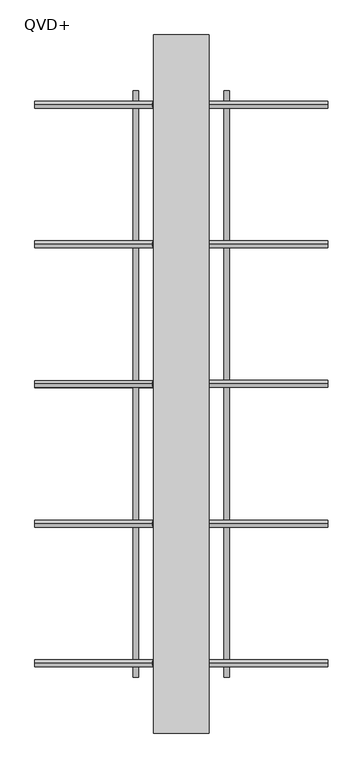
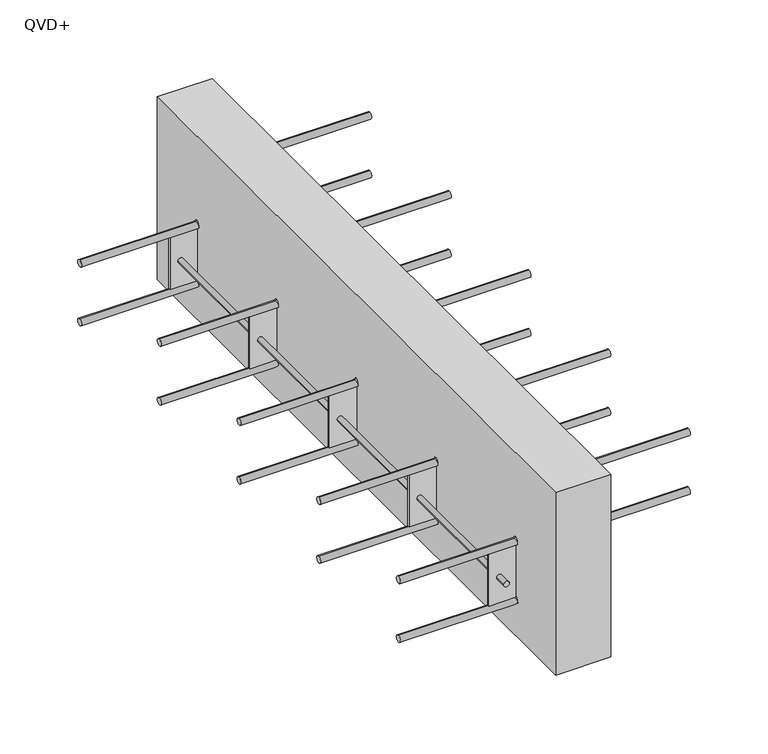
"""IFC4 building model written with IfcOpenShell, lengths in millimetres: fastener geometry, ACINOXplus_Typenreihe_QV : QVD+."""

from ifc_helpers import new_model, si_unit, point, frame, frame_2d, origin, place, context, project, spatial, polyline, circle_curve, ellipse_curve, trimmed, segment, composite_curve, outline, extrude, source, transform, mapped, element, save
from ifc_brep_helpers import plane_surface, cylinder_surface, advanced_brep


def qvd_6d9e3615(model_context):
    return source(origin(), model_context, "Body", "SolidModel", [
        extrude(outline(polyline([(40.0, 500.0), (40.0, -500.0), (-40.0, -500.0), (-40.0, 500.0), (40.0, 500.0)])), frame((0.0, 0.0, -200.0), z_axis=(0.0, 0.0, 1.0), x_axis=(1.0, 0.0, 0.0)), (0.0, 0.0, 1.0), 280.0),
        extrude(outline(polyline([(-60.0, -40.0), (-60.0, -80.0), (-140.0, -80.0), (-140.0, -40.0), (-60.0, 40.0), (-60.0, 80.0), (20.0, 80.0), (20.0, 40.0), (-60.0, -40.0)])), frame((0.0, 198.5, 0.0), z_axis=(0.0, 1.0, 0.0), x_axis=(0.0, 0.0, 1.0)), (0.0, 0.0, 1.0), 3.0),
        extrude(outline(polyline([(-60.0, -40.0), (-60.0, -80.0), (-140.0, -80.0), (-140.0, -40.0), (-60.0, 40.0), (-60.0, 80.0), (20.0, 80.0), (20.0, 40.0), (-60.0, -40.0)])), frame((0.0, -1.5, 0.0), z_axis=(0.0, 1.0, 0.0), x_axis=(0.0, 0.0, 1.0)), (0.0, 0.0, 1.0), 3.0),
        extrude(outline(polyline([(-60.0, -40.0), (-60.0, -80.0), (-140.0, -80.0), (-140.0, -40.0), (-60.0, 40.0), (-60.0, 80.0), (20.0, 80.0), (20.0, 40.0), (-60.0, -40.0)])), frame((0.0, -201.5, 0.0), z_axis=(0.0, 1.0, 0.0), x_axis=(0.0, 0.0, 1.0)), (0.0, 0.0, 1.0), 3.0),
        extrude(outline(polyline([(-60.0, -40.0), (-60.0, -80.0), (-140.0, -80.0), (-140.0, -40.0), (-60.0, 40.0), (-60.0, 80.0), (20.0, 80.0), (20.0, 40.0), (-60.0, -40.0)])), frame((0.0, 398.5, 0.0), z_axis=(0.0, 1.0, 0.0), x_axis=(0.0, 0.0, 1.0)), (0.0, 0.0, 1.0), 3.0),
        extrude(outline(polyline([(-60.0, -40.0), (-60.0, -80.0), (-140.0, -80.0), (-140.0, -40.0), (-60.0, 40.0), (-60.0, 80.0), (20.0, 80.0), (20.0, 40.0), (-60.0, -40.0)])), frame((0.0, -401.5, 0.0), z_axis=(0.0, 1.0, 0.0), x_axis=(0.0, 0.0, 1.0)), (0.0, 0.0, 1.0), 3.0),
        extrude(outline(composite_curve([segment(trimmed(circle_curve(frame_2d((-100.0, -65.0)), 4.0), [point((-100.0, -69.0))], [point((-100.0, -61.0))], False, "CARTESIAN"), True, "CONTINUOUS"), segment(trimmed(circle_curve(frame_2d((-100.0, -65.0)), 4.0), [point((-100.0, -61.0))], [point((-100.0, -69.0))], False, "CARTESIAN"), True, "CONTINUOUS")], self_intersect=False)), frame((0.0, 401.5, 0.0), z_axis=(0.0, 1.0, 0.0), x_axis=(0.0, 0.0, 1.0)), (0.0, 0.0, 1.0), 18.5),
        extrude(outline(composite_curve([segment(trimmed(circle_curve(frame_2d((-100.0, -65.0)), 4.0), [point((-100.0, -61.0))], [point((-100.0, -69.0))], False, "CARTESIAN"), True, "CONTINUOUS"), segment(trimmed(circle_curve(frame_2d((-100.0, -65.0)), 4.0), [point((-100.0, -69.0))], [point((-100.0, -61.0))], False, "CARTESIAN"), True, "CONTINUOUS")], self_intersect=False)), frame((0.0, -420.0, 0.0), z_axis=(0.0, 1.0, 0.0), x_axis=(0.0, 0.0, 1.0)), (0.0, 0.0, 1.0), 18.5),
        extrude(outline(composite_curve([segment(trimmed(circle_curve(frame_2d((-100.0, -65.0)), 4.0), [point((-100.0, -69.0))], [point((-100.0, -61.0))], False, "CARTESIAN"), True, "CONTINUOUS"), segment(trimmed(circle_curve(frame_2d((-100.0, -65.0)), 4.0), [point((-100.0, -61.0))], [point((-100.0, -69.0))], False, "CARTESIAN"), True, "CONTINUOUS")], self_intersect=False)), frame((0.0, -398.5, 0.0), z_axis=(0.0, 1.0, 0.0), x_axis=(0.0, 0.0, 1.0)), (0.0, 0.0, 1.0), 197.0),
        extrude(outline(composite_curve([segment(trimmed(circle_curve(frame_2d((-100.0, -65.0)), 4.0), [point((-100.0, -69.0))], [point((-100.0, -61.0))], False, "CARTESIAN"), True, "CONTINUOUS"), segment(trimmed(circle_curve(frame_2d((-100.0, -65.0)), 4.0), [point((-100.0, -61.0))], [point((-100.0, -69.0))], False, "CARTESIAN"), True, "CONTINUOUS")], self_intersect=False)), frame((0.0, -198.5, 0.0), z_axis=(0.0, 1.0, 0.0), x_axis=(0.0, 0.0, 1.0)), (0.0, 0.0, 1.0), 597.0),
        extrude(outline(composite_curve([segment(trimmed(circle_curve(frame_2d((-20.0, 65.0)), 4.0), [point((-20.0, 61.0))], [point((-20.0, 69.0))], False, "CARTESIAN"), True, "CONTINUOUS"), segment(trimmed(circle_curve(frame_2d((-20.0, 65.0)), 4.0), [point((-20.0, 69.0))], [point((-20.0, 61.0))], False, "CARTESIAN"), True, "CONTINUOUS")], self_intersect=False)), frame((0.0, 401.5, 0.0), z_axis=(0.0, 1.0, 0.0), x_axis=(0.0, 0.0, 1.0)), (0.0, 0.0, 1.0), 18.5),
        extrude(outline(composite_curve([segment(trimmed(circle_curve(frame_2d((-20.0, 65.0)), 4.0), [point((-20.0, 69.0))], [point((-20.0, 61.0))], False, "CARTESIAN"), True, "CONTINUOUS"), segment(trimmed(circle_curve(frame_2d((-20.0, 65.0)), 4.0), [point((-20.0, 61.0))], [point((-20.0, 69.0))], False, "CARTESIAN"), True, "CONTINUOUS")], self_intersect=False)), frame((0.0, -420.0, 0.0), z_axis=(0.0, 1.0, 0.0), x_axis=(0.0, 0.0, 1.0)), (0.0, 0.0, 1.0), 18.5),
        extrude(outline(composite_curve([segment(trimmed(circle_curve(frame_2d((-20.0, 65.0)), 4.0), [point((-20.0, 61.0))], [point((-20.0, 69.0))], False, "CARTESIAN"), True, "CONTINUOUS"), segment(trimmed(circle_curve(frame_2d((-20.0, 65.0)), 4.0), [point((-20.0, 69.0))], [point((-20.0, 61.0))], False, "CARTESIAN"), True, "CONTINUOUS")], self_intersect=False)), frame((0.0, -198.5, 0.0), z_axis=(0.0, 1.0, 0.0), x_axis=(0.0, 0.0, 1.0)), (0.0, 0.0, 1.0), 597.0),
        extrude(outline(composite_curve([segment(trimmed(circle_curve(frame_2d((-20.0, 65.0)), 4.0), [point((-20.0, 61.0))], [point((-20.0, 69.0))], False, "CARTESIAN"), True, "CONTINUOUS"), segment(trimmed(circle_curve(frame_2d((-20.0, 65.0)), 4.0), [point((-20.0, 69.0))], [point((-20.0, 61.0))], False, "CARTESIAN"), True, "CONTINUOUS")], self_intersect=False)), frame((0.0, -398.5, 0.0), z_axis=(0.0, 1.0, 0.0), x_axis=(0.0, 0.0, 1.0)), (0.0, 0.0, 1.0), 197.0),
        advanced_brep(
        [(-210.0, 0.0, -150.0), (-210.0, 0.0, -140.0), (-37.9289322, 0.0, -150.0), (-42.0710678, 0.0, -140.0), (42.0710678, 0.0, -70.0), (37.9289322, 0.0, -60.0), (210.0, 0.0, -70.0), (210.0, 0.0, -60.0)],
        [
            (0, 1, circle_curve(frame((-210.0, 0.0, -145.0), z_axis=(-1.0, 0.0, 0.0), x_axis=(0.0, 0.0, 1.0)), 5.0)),
            (1, 0, circle_curve(frame((-210.0, 0.0, -145.0), z_axis=(-1.0, 0.0, 0.0), x_axis=(0.0, 0.0, 1.0)), 5.0)),
            (0, 2),
            (2, 3, ellipse_curve(frame((-40.0, 0.0, -145.0), z_axis=(-0.9238795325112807, 0.0, -0.38268343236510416), x_axis=(-0.38268343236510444, 0.0, 0.9238795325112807)), 5.411961, 5.0)),
            (3, 1),
            (3, 2, ellipse_curve(frame((-40.0, 0.0, -145.0), z_axis=(-0.9238795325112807, 0.0, -0.38268343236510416), x_axis=(-0.38268343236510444, 0.0, 0.9238795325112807)), 5.411961, 5.0)),
            (2, 4),
            (4, 5, ellipse_curve(frame((40.0, 0.0, -65.0), z_axis=(-0.9238795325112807, 0.0, -0.38268343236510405), x_axis=(0.3826834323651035, 0.0, -0.923879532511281)), 5.411961, 5.0)),
            (5, 3),
            (5, 4, ellipse_curve(frame((40.0, 0.0, -65.0), z_axis=(-0.9238795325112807, 0.0, -0.38268343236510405), x_axis=(0.3826834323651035, 0.0, -0.923879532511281)), 5.411961, 5.0)),
            (6, 7, circle_curve(frame((210.0, 0.0, -65.0), z_axis=(1.0, 0.0, 0.0), x_axis=(0.0, 0.0, 1.0)), 5.0)),
            (7, 6, circle_curve(frame((210.0, 0.0, -65.0), z_axis=(1.0, 0.0, 0.0), x_axis=(0.0, 0.0, 1.0)), 5.0)),
            (4, 6),
            (7, 5),
        ],
        [
            plane_surface(frame((-210.0, 0.0, -145.0), z_axis=(-1.0, 0.0, 0.0), x_axis=(0.0, -1.0, 0.0))),
            cylinder_surface(frame((-210.0, 0.0, -145.0), z_axis=(-1.0, 0.0, 0.0), x_axis=(0.0, 0.0, 1.0)), 5.0),
            cylinder_surface(frame((-40.0, 0.0, -145.0), z_axis=(-0.7071067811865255, 0.0, -0.7071067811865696), x_axis=(-0.7071067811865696, 0.0, 0.7071067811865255)), 5.0),
            plane_surface(frame((210.0, 0.0, -65.0), z_axis=(1.0, 0.0, 0.0), x_axis=(0.0, -1.0, 0.0))),
            cylinder_surface(frame((40.0, 0.0, -65.0), z_axis=(-1.0, 0.0, 0.0), x_axis=(0.0, 0.0, 1.0)), 5.0),
        ],
        [
            (0, [[1, 2]]),
            (1, [[-1, 3, 4, 5]]),
            (1, [[-2, -5, 6, -3]]),
            (2, [[-4, 7, 8, 9]]),
            (2, [[-6, -9, 10, -7]]),
            (3, [[11, 12]]),
            (4, [[-8, 13, -12, 14]]),
            (4, [[-10, -14, -11, -13]]),
        ],
    ),
        advanced_brep(
        [(-210.0, 200.0, -150.0), (-210.0, 200.0, -140.0), (-37.9289322, 200.0, -150.0), (-42.0710678, 200.0, -140.0), (42.0710678, 200.0, -70.0), (37.9289322, 200.0, -60.0), (210.0, 200.0, -70.0), (210.0, 200.0, -60.0)],
        [
            (0, 1, circle_curve(frame((-210.0, 200.0, -145.0), z_axis=(-1.0, 0.0, 0.0), x_axis=(0.0, 0.0, 1.0)), 5.0)),
            (1, 0, circle_curve(frame((-210.0, 200.0, -145.0), z_axis=(-1.0, 0.0, 0.0), x_axis=(0.0, 0.0, 1.0)), 5.0)),
            (0, 2),
            (2, 3, ellipse_curve(frame((-40.0, 200.0, -145.0), z_axis=(-0.9238795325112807, 0.0, -0.38268343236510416), x_axis=(-0.38268343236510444, 0.0, 0.9238795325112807)), 5.411961, 5.0)),
            (3, 1),
            (3, 2, ellipse_curve(frame((-40.0, 200.0, -145.0), z_axis=(-0.9238795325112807, 0.0, -0.38268343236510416), x_axis=(-0.38268343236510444, 0.0, 0.9238795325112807)), 5.411961, 5.0)),
            (2, 4),
            (4, 5, ellipse_curve(frame((40.0, 200.0, -65.0), z_axis=(-0.9238795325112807, 0.0, -0.38268343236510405), x_axis=(0.3826834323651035, 0.0, -0.923879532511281)), 5.411961, 5.0)),
            (5, 3),
            (5, 4, ellipse_curve(frame((40.0, 200.0, -65.0), z_axis=(-0.9238795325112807, 0.0, -0.38268343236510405), x_axis=(0.3826834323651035, 0.0, -0.923879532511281)), 5.411961, 5.0)),
            (6, 7, circle_curve(frame((210.0, 200.0, -65.0), z_axis=(1.0, 0.0, 0.0), x_axis=(0.0, 0.0, 1.0)), 5.0)),
            (7, 6, circle_curve(frame((210.0, 200.0, -65.0), z_axis=(1.0, 0.0, 0.0), x_axis=(0.0, 0.0, 1.0)), 5.0)),
            (4, 6),
            (7, 5),
        ],
        [
            plane_surface(frame((-210.0, 200.0, -145.0), z_axis=(-1.0, 0.0, 0.0), x_axis=(0.0, -1.0, 0.0))),
            cylinder_surface(frame((-210.0, 200.0, -145.0), z_axis=(-1.0, 0.0, 0.0), x_axis=(0.0, 0.0, 1.0)), 5.0),
            cylinder_surface(frame((-40.0, 200.0, -145.0), z_axis=(-0.7071067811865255, 0.0, -0.7071067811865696), x_axis=(-0.7071067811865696, 0.0, 0.7071067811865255)), 5.0),
            plane_surface(frame((210.0, 200.0, -65.0), z_axis=(1.0, 0.0, 0.0), x_axis=(0.0, -1.0, 0.0))),
            cylinder_surface(frame((40.0, 200.0, -65.0), z_axis=(-1.0, 0.0, 0.0), x_axis=(0.0, 0.0, 1.0)), 5.0),
        ],
        [
            (0, [[1, 2]]),
            (1, [[-1, 3, 4, 5]]),
            (1, [[-2, -5, 6, -3]]),
            (2, [[-4, 7, 8, 9]]),
            (2, [[-6, -9, 10, -7]]),
            (3, [[11, 12]]),
            (4, [[-8, 13, -12, 14]]),
            (4, [[-10, -14, -11, -13]]),
        ],
    ),
        advanced_brep(
        [(-210.0, 400.0, -150.0), (-210.0, 400.0, -140.0), (-37.9289322, 400.0, -150.0), (-42.0710678, 400.0, -140.0), (42.0710678, 400.0, -70.0), (37.9289322, 400.0, -60.0), (210.0, 400.0, -70.0), (210.0, 400.0, -60.0)],
        [
            (0, 1, circle_curve(frame((-210.0, 400.0, -145.0), z_axis=(-1.0, 0.0, 0.0), x_axis=(0.0, 0.0, 1.0)), 5.0)),
            (1, 0, circle_curve(frame((-210.0, 400.0, -145.0), z_axis=(-1.0, 0.0, 0.0), x_axis=(0.0, 0.0, 1.0)), 5.0)),
            (0, 2),
            (2, 3, ellipse_curve(frame((-40.0, 400.0, -145.0), z_axis=(-0.9238795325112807, 0.0, -0.38268343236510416), x_axis=(-0.38268343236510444, 0.0, 0.9238795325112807)), 5.411961, 5.0)),
            (3, 1),
            (3, 2, ellipse_curve(frame((-40.0, 400.0, -145.0), z_axis=(-0.9238795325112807, 0.0, -0.38268343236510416), x_axis=(-0.38268343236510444, 0.0, 0.9238795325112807)), 5.411961, 5.0)),
            (2, 4),
            (4, 5, ellipse_curve(frame((40.0, 400.0, -65.0), z_axis=(-0.9238795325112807, 0.0, -0.38268343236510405), x_axis=(0.3826834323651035, 0.0, -0.923879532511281)), 5.411961, 5.0)),
            (5, 3),
            (5, 4, ellipse_curve(frame((40.0, 400.0, -65.0), z_axis=(-0.9238795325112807, 0.0, -0.38268343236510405), x_axis=(0.3826834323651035, 0.0, -0.923879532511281)), 5.411961, 5.0)),
            (6, 7, circle_curve(frame((210.0, 400.0, -65.0), z_axis=(1.0, 0.0, 0.0), x_axis=(0.0, 0.0, 1.0)), 5.0)),
            (7, 6, circle_curve(frame((210.0, 400.0, -65.0), z_axis=(1.0, 0.0, 0.0), x_axis=(0.0, 0.0, 1.0)), 5.0)),
            (4, 6),
            (7, 5),
        ],
        [
            plane_surface(frame((-210.0, 400.0, -145.0), z_axis=(-1.0, 0.0, 0.0), x_axis=(0.0, -1.0, 0.0))),
            cylinder_surface(frame((-210.0, 400.0, -145.0), z_axis=(-1.0, 0.0, 0.0), x_axis=(0.0, 0.0, 1.0)), 5.0),
            cylinder_surface(frame((-40.0, 400.0, -145.0), z_axis=(-0.7071067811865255, 0.0, -0.7071067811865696), x_axis=(-0.7071067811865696, 0.0, 0.7071067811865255)), 5.0),
            plane_surface(frame((210.0, 400.0, -65.0), z_axis=(1.0, 0.0, 0.0), x_axis=(0.0, -1.0, 0.0))),
            cylinder_surface(frame((40.0, 400.0, -65.0), z_axis=(-1.0, 0.0, 0.0), x_axis=(0.0, 0.0, 1.0)), 5.0),
        ],
        [
            (0, [[1, 2]]),
            (1, [[-1, 3, 4, 5]]),
            (1, [[-2, -5, 6, -3]]),
            (2, [[-4, 7, 8, 9]]),
            (2, [[-6, -9, 10, -7]]),
            (3, [[11, 12]]),
            (4, [[-8, 13, -12, 14]]),
            (4, [[-10, -14, -11, -13]]),
        ],
    ),
        advanced_brep(
        [(-210.0, -200.0, -150.0), (-210.0, -200.0, -140.0), (-37.9289322, -200.0, -150.0), (-42.0710678, -200.0, -140.0), (42.0710678, -200.0, -70.0), (37.9289322, -200.0, -60.0), (210.0, -200.0, -70.0), (210.0, -200.0, -60.0)],
        [
            (0, 1, circle_curve(frame((-210.0, -200.0, -145.0), z_axis=(-1.0, 0.0, 0.0), x_axis=(0.0, 0.0, 1.0)), 5.0)),
            (1, 0, circle_curve(frame((-210.0, -200.0, -145.0), z_axis=(-1.0, 0.0, 0.0), x_axis=(0.0, 0.0, 1.0)), 5.0)),
            (0, 2),
            (2, 3, ellipse_curve(frame((-40.0, -200.0, -145.0), z_axis=(-0.9238795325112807, 0.0, -0.38268343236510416), x_axis=(-0.38268343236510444, 0.0, 0.9238795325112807)), 5.411961, 5.0)),
            (3, 1),
            (3, 2, ellipse_curve(frame((-40.0, -200.0, -145.0), z_axis=(-0.9238795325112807, 0.0, -0.38268343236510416), x_axis=(-0.38268343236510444, 0.0, 0.9238795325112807)), 5.411961, 5.0)),
            (2, 4),
            (4, 5, ellipse_curve(frame((40.0, -200.0, -65.0), z_axis=(-0.9238795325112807, 0.0, -0.38268343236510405), x_axis=(0.3826834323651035, 0.0, -0.923879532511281)), 5.411961, 5.0)),
            (5, 3),
            (5, 4, ellipse_curve(frame((40.0, -200.0, -65.0), z_axis=(-0.9238795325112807, 0.0, -0.38268343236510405), x_axis=(0.3826834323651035, 0.0, -0.923879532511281)), 5.411961, 5.0)),
            (6, 7, circle_curve(frame((210.0, -200.0, -65.0), z_axis=(1.0, 0.0, 0.0), x_axis=(0.0, 0.0, 1.0)), 5.0)),
            (7, 6, circle_curve(frame((210.0, -200.0, -65.0), z_axis=(1.0, 0.0, 0.0), x_axis=(0.0, 0.0, 1.0)), 5.0)),
            (4, 6),
            (7, 5),
        ],
        [
            plane_surface(frame((-210.0, -200.0, -145.0), z_axis=(-1.0, 0.0, 0.0), x_axis=(0.0, -1.0, 0.0))),
            cylinder_surface(frame((-210.0, -200.0, -145.0), z_axis=(-1.0, 0.0, 0.0), x_axis=(0.0, 0.0, 1.0)), 5.0),
            cylinder_surface(frame((-40.0, -200.0, -145.0), z_axis=(-0.7071067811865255, 0.0, -0.7071067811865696), x_axis=(-0.7071067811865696, 0.0, 0.7071067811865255)), 5.0),
            plane_surface(frame((210.0, -200.0, -65.0), z_axis=(1.0, 0.0, 0.0), x_axis=(0.0, -1.0, 0.0))),
            cylinder_surface(frame((40.0, -200.0, -65.0), z_axis=(-1.0, 0.0, 0.0), x_axis=(0.0, 0.0, 1.0)), 5.0),
        ],
        [
            (0, [[1, 2]]),
            (1, [[-1, 3, 4, 5]]),
            (1, [[-2, -5, 6, -3]]),
            (2, [[-4, 7, 8, 9]]),
            (2, [[-6, -9, 10, -7]]),
            (3, [[11, 12]]),
            (4, [[-8, 13, -12, 14]]),
            (4, [[-10, -14, -11, -13]]),
        ],
    ),
        advanced_brep(
        [(-210.0, -400.0, -150.0), (-210.0, -400.0, -140.0), (-37.9289322, -400.0, -150.0), (-42.0710678, -400.0, -140.0), (42.0710678, -400.0, -70.0), (37.9289322, -400.0, -60.0), (210.0, -400.0, -70.0), (210.0, -400.0, -60.0)],
        [
            (0, 1, circle_curve(frame((-210.0, -400.0, -145.0), z_axis=(-1.0, 0.0, 0.0), x_axis=(0.0, 0.0, 1.0)), 5.0)),
            (1, 0, circle_curve(frame((-210.0, -400.0, -145.0), z_axis=(-1.0, 0.0, 0.0), x_axis=(0.0, 0.0, 1.0)), 5.0)),
            (0, 2),
            (2, 3, ellipse_curve(frame((-40.0, -400.0, -145.0), z_axis=(-0.9238795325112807, 0.0, -0.38268343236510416), x_axis=(-0.38268343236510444, 0.0, 0.9238795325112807)), 5.411961, 5.0)),
            (3, 1),
            (3, 2, ellipse_curve(frame((-40.0, -400.0, -145.0), z_axis=(-0.9238795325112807, 0.0, -0.38268343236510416), x_axis=(-0.38268343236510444, 0.0, 0.9238795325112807)), 5.411961, 5.0)),
            (2, 4),
            (4, 5, ellipse_curve(frame((40.0, -400.0, -65.0), z_axis=(-0.9238795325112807, 0.0, -0.38268343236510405), x_axis=(0.3826834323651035, 0.0, -0.923879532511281)), 5.411961, 5.0)),
            (5, 3),
            (5, 4, ellipse_curve(frame((40.0, -400.0, -65.0), z_axis=(-0.9238795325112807, 0.0, -0.38268343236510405), x_axis=(0.3826834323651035, 0.0, -0.923879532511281)), 5.411961, 5.0)),
            (6, 7, circle_curve(frame((210.0, -400.0, -65.0), z_axis=(1.0, 0.0, 0.0), x_axis=(0.0, 0.0, 1.0)), 5.0)),
            (7, 6, circle_curve(frame((210.0, -400.0, -65.0), z_axis=(1.0, 0.0, 0.0), x_axis=(0.0, 0.0, 1.0)), 5.0)),
            (4, 6),
            (7, 5),
        ],
        [
            plane_surface(frame((-210.0, -400.0, -145.0), z_axis=(-1.0, 0.0, 0.0), x_axis=(0.0, -1.0, 0.0))),
            cylinder_surface(frame((-210.0, -400.0, -145.0), z_axis=(-1.0, 0.0, 0.0), x_axis=(0.0, 0.0, 1.0)), 5.0),
            cylinder_surface(frame((-40.0, -400.0, -145.0), z_axis=(-0.7071067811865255, 0.0, -0.7071067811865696), x_axis=(-0.7071067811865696, 0.0, 0.7071067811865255)), 5.0),
            plane_surface(frame((210.0, -400.0, -65.0), z_axis=(1.0, 0.0, 0.0), x_axis=(0.0, -1.0, 0.0))),
            cylinder_surface(frame((40.0, -400.0, -65.0), z_axis=(-1.0, 0.0, 0.0), x_axis=(0.0, 0.0, 1.0)), 5.0),
        ],
        [
            (0, [[1, 2]]),
            (1, [[-1, 3, 4, 5]]),
            (1, [[-2, -5, 6, -3]]),
            (2, [[-4, 7, 8, 9]]),
            (2, [[-6, -9, 10, -7]]),
            (3, [[11, 12]]),
            (4, [[-8, 13, -12, 14]]),
            (4, [[-10, -14, -11, -13]]),
        ],
    ),
        advanced_brep(
        [(-210.0, 0.0, -60.0), (-210.0, 0.0, -50.0), (-37.9289322, 0.0, -60.0), (-42.0710678, 0.0, -50.0), (210.0, 0.0, 20.0), (210.0, 0.0, 30.0), (37.9289322, 0.0, 30.0), (42.0710678, 0.0, 20.0)],
        [
            (0, 1, circle_curve(frame((-210.0, 0.0, -55.0), z_axis=(-1.0, 0.0, 0.0), x_axis=(0.0, 0.0, 1.0)), 5.0)),
            (1, 0, circle_curve(frame((-210.0, 0.0, -55.0), z_axis=(-1.0, 0.0, 0.0), x_axis=(0.0, 0.0, 1.0)), 5.0)),
            (0, 2),
            (2, 3, ellipse_curve(frame((-40.0, 0.0, -55.0), z_axis=(-0.9238795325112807, 0.0, -0.3826834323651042), x_axis=(-0.38268343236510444, 0.0, 0.9238795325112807)), 5.411961, 5.0)),
            (3, 1),
            (3, 2, ellipse_curve(frame((-40.0, 0.0, -55.0), z_axis=(-0.9238795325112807, 0.0, -0.3826834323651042), x_axis=(-0.38268343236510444, 0.0, 0.9238795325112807)), 5.411961, 5.0)),
            (4, 5, circle_curve(frame((210.0, 0.0, 25.0), z_axis=(1.0, 0.0, 0.0), x_axis=(0.0, 0.0, 1.0)), 5.0)),
            (5, 4, circle_curve(frame((210.0, 0.0, 25.0), z_axis=(1.0, 0.0, 0.0), x_axis=(0.0, 0.0, 1.0)), 5.0)),
            (6, 7, ellipse_curve(frame((40.0, 0.0, 25.0), z_axis=(0.9238795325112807, 0.0, 0.3826834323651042), x_axis=(-0.38268343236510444, 0.0, 0.9238795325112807)), 5.411961, 5.0)),
            (7, 4),
            (5, 6),
            (7, 6, ellipse_curve(frame((40.0, 0.0, 25.0), z_axis=(0.9238795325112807, 0.0, 0.3826834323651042), x_axis=(-0.38268343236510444, 0.0, 0.9238795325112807)), 5.411961, 5.0)),
            (2, 7),
            (6, 3),
        ],
        [
            plane_surface(frame((-210.0, 0.0, -55.0), z_axis=(-1.0, 0.0, 0.0), x_axis=(0.0, -1.0, 0.0))),
            cylinder_surface(frame((-210.0, 0.0, -55.0), z_axis=(-1.0, 0.0, 0.0), x_axis=(0.0, 0.0, 1.0)), 5.0),
            plane_surface(frame((210.0, 0.0, 25.0), z_axis=(1.0, 0.0, 0.0), x_axis=(0.0, -1.0, 0.0))),
            cylinder_surface(frame((40.0, 0.0, 25.0), z_axis=(-1.0, 0.0, 0.0), x_axis=(0.0, 0.0, 1.0)), 5.0),
            cylinder_surface(frame((-40.0, 0.0, -55.0), z_axis=(-0.7071067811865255, 0.0, -0.7071067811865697), x_axis=(-0.7071067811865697, 0.0, 0.7071067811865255)), 5.0),
        ],
        [
            (0, [[1, 2]]),
            (1, [[-1, 3, 4, 5]]),
            (1, [[-2, -5, 6, -3]]),
            (2, [[7, 8]]),
            (3, [[9, 10, -8, 11]]),
            (3, [[12, -11, -7, -10]]),
            (4, [[-4, 13, -9, 14]]),
            (4, [[-6, -14, -12, -13]]),
        ],
    ),
        advanced_brep(
        [(-210.0, 200.0, -60.0), (-210.0, 200.0, -50.0), (-37.9289322, 200.0, -60.0), (-42.0710678, 200.0, -50.0), (210.0, 200.0, 20.0), (210.0, 200.0, 30.0), (37.9289322, 200.0, 30.0), (42.0710678, 200.0, 20.0)],
        [
            (0, 1, circle_curve(frame((-210.0, 200.0, -55.0), z_axis=(-1.0, 0.0, 0.0), x_axis=(0.0, 0.0, 1.0)), 5.0)),
            (1, 0, circle_curve(frame((-210.0, 200.0, -55.0), z_axis=(-1.0, 0.0, 0.0), x_axis=(0.0, 0.0, 1.0)), 5.0)),
            (0, 2),
            (2, 3, ellipse_curve(frame((-40.0, 200.0, -55.0), z_axis=(-0.9238795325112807, 0.0, -0.3826834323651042), x_axis=(-0.38268343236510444, 0.0, 0.9238795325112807)), 5.411961, 5.0)),
            (3, 1),
            (3, 2, ellipse_curve(frame((-40.0, 200.0, -55.0), z_axis=(-0.9238795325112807, 0.0, -0.3826834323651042), x_axis=(-0.38268343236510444, 0.0, 0.9238795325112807)), 5.411961, 5.0)),
            (4, 5, circle_curve(frame((210.0, 200.0, 25.0), z_axis=(1.0, 0.0, 0.0), x_axis=(0.0, 0.0, 1.0)), 5.0)),
            (5, 4, circle_curve(frame((210.0, 200.0, 25.0), z_axis=(1.0, 0.0, 0.0), x_axis=(0.0, 0.0, 1.0)), 5.0)),
            (6, 7, ellipse_curve(frame((40.0, 200.0, 25.0), z_axis=(0.9238795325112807, 0.0, 0.3826834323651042), x_axis=(-0.38268343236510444, 0.0, 0.9238795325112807)), 5.411961, 5.0)),
            (7, 4),
            (5, 6),
            (7, 6, ellipse_curve(frame((40.0, 200.0, 25.0), z_axis=(0.9238795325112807, 0.0, 0.3826834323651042), x_axis=(-0.38268343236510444, 0.0, 0.9238795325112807)), 5.411961, 5.0)),
            (2, 7),
            (6, 3),
        ],
        [
            plane_surface(frame((-210.0, 200.0, -55.0), z_axis=(-1.0, 0.0, 0.0), x_axis=(0.0, -1.0, 0.0))),
            cylinder_surface(frame((-210.0, 200.0, -55.0), z_axis=(-1.0, 0.0, 0.0), x_axis=(0.0, 0.0, 1.0)), 5.0),
            plane_surface(frame((210.0, 200.0, 25.0), z_axis=(1.0, 0.0, 0.0), x_axis=(0.0, -1.0, 0.0))),
            cylinder_surface(frame((40.0, 200.0, 25.0), z_axis=(-1.0, 0.0, 0.0), x_axis=(0.0, 0.0, 1.0)), 5.0),
            cylinder_surface(frame((-40.0, 200.0, -55.0), z_axis=(-0.7071067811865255, 0.0, -0.7071067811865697), x_axis=(-0.7071067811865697, 0.0, 0.7071067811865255)), 5.0),
        ],
        [
            (0, [[1, 2]]),
            (1, [[-1, 3, 4, 5]]),
            (1, [[-2, -5, 6, -3]]),
            (2, [[7, 8]]),
            (3, [[9, 10, -8, 11]]),
            (3, [[12, -11, -7, -10]]),
            (4, [[-4, 13, -9, 14]]),
            (4, [[-6, -14, -12, -13]]),
        ],
    ),
        advanced_brep(
        [(-210.0, 400.0, -60.0), (-210.0, 400.0, -50.0), (-37.9289322, 400.0, -60.0), (-42.0710678, 400.0, -50.0), (210.0, 400.0, 20.0), (210.0, 400.0, 30.0), (37.9289322, 400.0, 30.0), (42.0710678, 400.0, 20.0)],
        [
            (0, 1, circle_curve(frame((-210.0, 400.0, -55.0), z_axis=(-1.0, 0.0, 0.0), x_axis=(0.0, 0.0, 1.0)), 5.0)),
            (1, 0, circle_curve(frame((-210.0, 400.0, -55.0), z_axis=(-1.0, 0.0, 0.0), x_axis=(0.0, 0.0, 1.0)), 5.0)),
            (0, 2),
            (2, 3, ellipse_curve(frame((-40.0, 400.0, -55.0), z_axis=(-0.9238795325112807, 0.0, -0.3826834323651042), x_axis=(-0.38268343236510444, 0.0, 0.9238795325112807)), 5.411961, 5.0)),
            (3, 1),
            (3, 2, ellipse_curve(frame((-40.0, 400.0, -55.0), z_axis=(-0.9238795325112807, 0.0, -0.3826834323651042), x_axis=(-0.38268343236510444, 0.0, 0.9238795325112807)), 5.411961, 5.0)),
            (4, 5, circle_curve(frame((210.0, 400.0, 25.0), z_axis=(1.0, 0.0, 0.0), x_axis=(0.0, 0.0, 1.0)), 5.0)),
            (5, 4, circle_curve(frame((210.0, 400.0, 25.0), z_axis=(1.0, 0.0, 0.0), x_axis=(0.0, 0.0, 1.0)), 5.0)),
            (6, 7, ellipse_curve(frame((40.0, 400.0, 25.0), z_axis=(0.9238795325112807, 0.0, 0.3826834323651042), x_axis=(-0.38268343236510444, 0.0, 0.9238795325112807)), 5.411961, 5.0)),
            (7, 4),
            (5, 6),
            (7, 6, ellipse_curve(frame((40.0, 400.0, 25.0), z_axis=(0.9238795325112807, 0.0, 0.3826834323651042), x_axis=(-0.38268343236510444, 0.0, 0.9238795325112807)), 5.411961, 5.0)),
            (2, 7),
            (6, 3),
        ],
        [
            plane_surface(frame((-210.0, 400.0, -55.0), z_axis=(-1.0, 0.0, 0.0), x_axis=(0.0, -1.0, 0.0))),
            cylinder_surface(frame((-210.0, 400.0, -55.0), z_axis=(-1.0, 0.0, 0.0), x_axis=(0.0, 0.0, 1.0)), 5.0),
            plane_surface(frame((210.0, 400.0, 25.0), z_axis=(1.0, 0.0, 0.0), x_axis=(0.0, -1.0, 0.0))),
            cylinder_surface(frame((40.0, 400.0, 25.0), z_axis=(-1.0, 0.0, 0.0), x_axis=(0.0, 0.0, 1.0)), 5.0),
            cylinder_surface(frame((-40.0, 400.0, -55.0), z_axis=(-0.7071067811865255, 0.0, -0.7071067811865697), x_axis=(-0.7071067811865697, 0.0, 0.7071067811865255)), 5.0),
        ],
        [
            (0, [[1, 2]]),
            (1, [[-1, 3, 4, 5]]),
            (1, [[-2, -5, 6, -3]]),
            (2, [[7, 8]]),
            (3, [[9, 10, -8, 11]]),
            (3, [[12, -11, -7, -10]]),
            (4, [[-4, 13, -9, 14]]),
            (4, [[-6, -14, -12, -13]]),
        ],
    ),
        advanced_brep(
        [(-210.0, -200.0, -60.0), (-210.0, -200.0, -50.0), (-37.9289322, -200.0, -60.0), (-42.0710678, -200.0, -50.0), (210.0, -200.0, 20.0), (210.0, -200.0, 30.0), (37.9289322, -200.0, 30.0), (42.0710678, -200.0, 20.0)],
        [
            (0, 1, circle_curve(frame((-210.0, -200.0, -55.0), z_axis=(-1.0, 0.0, 0.0), x_axis=(0.0, 0.0, 1.0)), 5.0)),
            (1, 0, circle_curve(frame((-210.0, -200.0, -55.0), z_axis=(-1.0, 0.0, 0.0), x_axis=(0.0, 0.0, 1.0)), 5.0)),
            (0, 2),
            (2, 3, ellipse_curve(frame((-40.0, -200.0, -55.0), z_axis=(-0.9238795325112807, 0.0, -0.3826834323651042), x_axis=(-0.38268343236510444, 0.0, 0.9238795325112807)), 5.411961, 5.0)),
            (3, 1),
            (3, 2, ellipse_curve(frame((-40.0, -200.0, -55.0), z_axis=(-0.9238795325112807, 0.0, -0.3826834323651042), x_axis=(-0.38268343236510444, 0.0, 0.9238795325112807)), 5.411961, 5.0)),
            (4, 5, circle_curve(frame((210.0, -200.0, 25.0), z_axis=(1.0, 0.0, 0.0), x_axis=(0.0, 0.0, 1.0)), 5.0)),
            (5, 4, circle_curve(frame((210.0, -200.0, 25.0), z_axis=(1.0, 0.0, 0.0), x_axis=(0.0, 0.0, 1.0)), 5.0)),
            (6, 7, ellipse_curve(frame((40.0, -200.0, 25.0), z_axis=(0.9238795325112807, 0.0, 0.3826834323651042), x_axis=(-0.38268343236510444, 0.0, 0.9238795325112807)), 5.411961, 5.0)),
            (7, 4),
            (5, 6),
            (7, 6, ellipse_curve(frame((40.0, -200.0, 25.0), z_axis=(0.9238795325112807, 0.0, 0.3826834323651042), x_axis=(-0.38268343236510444, 0.0, 0.9238795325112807)), 5.411961, 5.0)),
            (2, 7),
            (6, 3),
        ],
        [
            plane_surface(frame((-210.0, -200.0, -55.0), z_axis=(-1.0, 0.0, 0.0), x_axis=(0.0, -1.0, 0.0))),
            cylinder_surface(frame((-210.0, -200.0, -55.0), z_axis=(-1.0, 0.0, 0.0), x_axis=(0.0, 0.0, 1.0)), 5.0),
            plane_surface(frame((210.0, -200.0, 25.0), z_axis=(1.0, 0.0, 0.0), x_axis=(0.0, -1.0, 0.0))),
            cylinder_surface(frame((40.0, -200.0, 25.0), z_axis=(-1.0, 0.0, 0.0), x_axis=(0.0, 0.0, 1.0)), 5.0),
            cylinder_surface(frame((-40.0, -200.0, -55.0), z_axis=(-0.7071067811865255, 0.0, -0.7071067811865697), x_axis=(-0.7071067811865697, 0.0, 0.7071067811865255)), 5.0),
        ],
        [
            (0, [[1, 2]]),
            (1, [[-1, 3, 4, 5]]),
            (1, [[-2, -5, 6, -3]]),
            (2, [[7, 8]]),
            (3, [[9, 10, -8, 11]]),
            (3, [[12, -11, -7, -10]]),
            (4, [[-4, 13, -9, 14]]),
            (4, [[-6, -14, -12, -13]]),
        ],
    ),
        advanced_brep(
        [(-210.0, -400.0, -60.0), (-210.0, -400.0, -50.0), (-37.9289322, -400.0, -60.0), (-42.0710678, -400.0, -50.0), (210.0, -400.0, 20.0), (210.0, -400.0, 30.0), (37.9289322, -400.0, 30.0), (42.0710678, -400.0, 20.0)],
        [
            (0, 1, circle_curve(frame((-210.0, -400.0, -55.0), z_axis=(-1.0, 0.0, 0.0), x_axis=(0.0, 0.0, 1.0)), 5.0)),
            (1, 0, circle_curve(frame((-210.0, -400.0, -55.0), z_axis=(-1.0, 0.0, 0.0), x_axis=(0.0, 0.0, 1.0)), 5.0)),
            (0, 2),
            (2, 3, ellipse_curve(frame((-40.0, -400.0, -55.0), z_axis=(-0.9238795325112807, 0.0, -0.3826834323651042), x_axis=(-0.38268343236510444, 0.0, 0.9238795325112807)), 5.411961, 5.0)),
            (3, 1),
            (3, 2, ellipse_curve(frame((-40.0, -400.0, -55.0), z_axis=(-0.9238795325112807, 0.0, -0.3826834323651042), x_axis=(-0.38268343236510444, 0.0, 0.9238795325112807)), 5.411961, 5.0)),
            (4, 5, circle_curve(frame((210.0, -400.0, 25.0), z_axis=(1.0, 0.0, 0.0), x_axis=(0.0, 0.0, 1.0)), 5.0)),
            (5, 4, circle_curve(frame((210.0, -400.0, 25.0), z_axis=(1.0, 0.0, 0.0), x_axis=(0.0, 0.0, 1.0)), 5.0)),
            (6, 7, ellipse_curve(frame((40.0, -400.0, 25.0), z_axis=(0.9238795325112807, 0.0, 0.3826834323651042), x_axis=(-0.38268343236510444, 0.0, 0.9238795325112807)), 5.411961, 5.0)),
            (7, 4),
            (5, 6),
            (7, 6, ellipse_curve(frame((40.0, -400.0, 25.0), z_axis=(0.9238795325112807, 0.0, 0.3826834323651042), x_axis=(-0.38268343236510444, 0.0, 0.9238795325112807)), 5.411961, 5.0)),
            (2, 7),
            (6, 3),
        ],
        [
            plane_surface(frame((-210.0, -400.0, -55.0), z_axis=(-1.0, 0.0, 0.0), x_axis=(0.0, -1.0, 0.0))),
            cylinder_surface(frame((-210.0, -400.0, -55.0), z_axis=(-1.0, 0.0, 0.0), x_axis=(0.0, 0.0, 1.0)), 5.0),
            plane_surface(frame((210.0, -400.0, 25.0), z_axis=(1.0, 0.0, 0.0), x_axis=(0.0, -1.0, 0.0))),
            cylinder_surface(frame((40.0, -400.0, 25.0), z_axis=(-1.0, 0.0, 0.0), x_axis=(0.0, 0.0, 1.0)), 5.0),
            cylinder_surface(frame((-40.0, -400.0, -55.0), z_axis=(-0.7071067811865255, 0.0, -0.7071067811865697), x_axis=(-0.7071067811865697, 0.0, 0.7071067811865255)), 5.0),
        ],
        [
            (0, [[1, 2]]),
            (1, [[-1, 3, 4, 5]]),
            (1, [[-2, -5, 6, -3]]),
            (2, [[7, 8]]),
            (3, [[9, 10, -8, 11]]),
            (3, [[12, -11, -7, -10]]),
            (4, [[-4, 13, -9, 14]]),
            (4, [[-6, -14, -12, -13]]),
        ],
    ),
    ])


if __name__ == "__main__":
    model = new_model("IFC4")
    model_context = context("Model", 3, world=origin())
    ifc_project = project(units=[si_unit("LENGTHUNIT", "METRE", prefix="MILLI")], contexts=[model_context])
    site = spatial("IfcSite", under=ifc_project)
    building = spatial("IfcBuilding", under=site)
    placement = place(None, origin())
    qvd_shape = qvd_6d9e3615(model_context)
    element("IfcFastener", 1, ObjectType="ACINOXplus_Typenreihe_QV : QVD+", at=placement, inside=building, context=model_context, shape_type="MappedRepresentation", body=[
        mapped(qvd_shape, transform((0.0, 0.0, 0.0), x_axis=(1.0, 0.0, 0.0), y_axis=(0.0, 1.0, 0.0), z_axis=(0.0, 0.0, 1.0))),
    ])
    save(model, "model.ifc")
